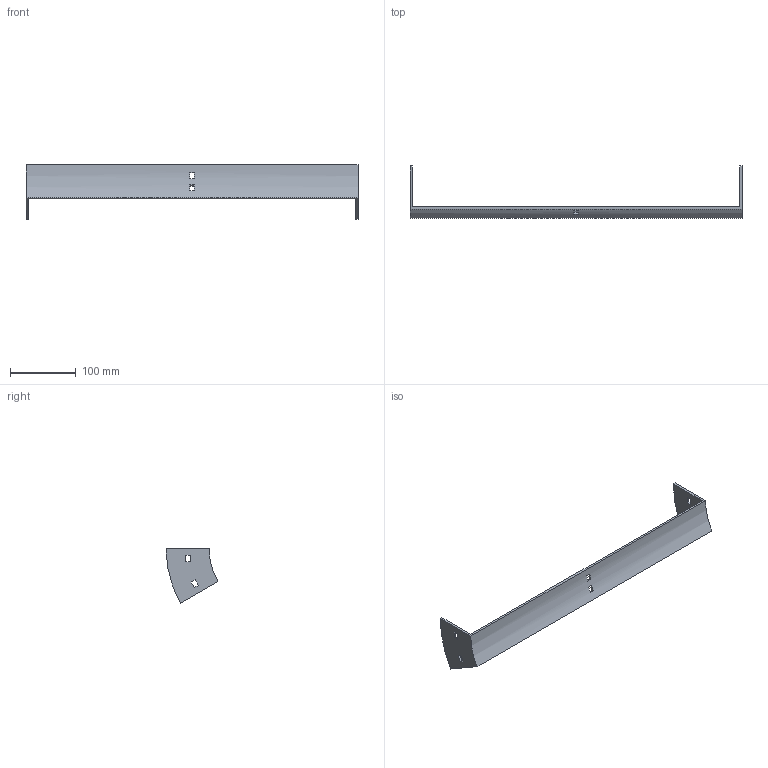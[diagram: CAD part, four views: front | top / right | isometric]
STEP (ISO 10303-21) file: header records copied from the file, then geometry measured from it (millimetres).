
FILE_DESCRIPTION (( 'STEP AP214' ), '1' );
FILE_NAME ('35B1H500.step', '2025-02-21T09:26:09', ( '' ), ( '' ), 'SwSTEP 2.0', 'SolidWorks 2023', '' );
FILE_SCHEMA (( 'AUTOMOTIVE_DESIGN' ));
Length unit declared in the file: millimetre
Products named in the file (1): 35B1H500
Bounding box: 504 x 78.9 x 82.75 mm (x, y, z)
Volume: 123148.1 mm3; surface area: 76062.6 mm2
Topology: 1 solids, 1 shells, 34 faces, 96 edges, 64 vertices
Faces by surface type: plane 30, cylinder 4
Entity records: 1143 total; most frequent: CARTESIAN_POINT 195, ORIENTED_EDGE 192, DIRECTION 182, EDGE_CURVE 96, VECTOR 80, LINE 80, VERTEX_POINT 64, AXIS2_PLACEMENT_3D 51
